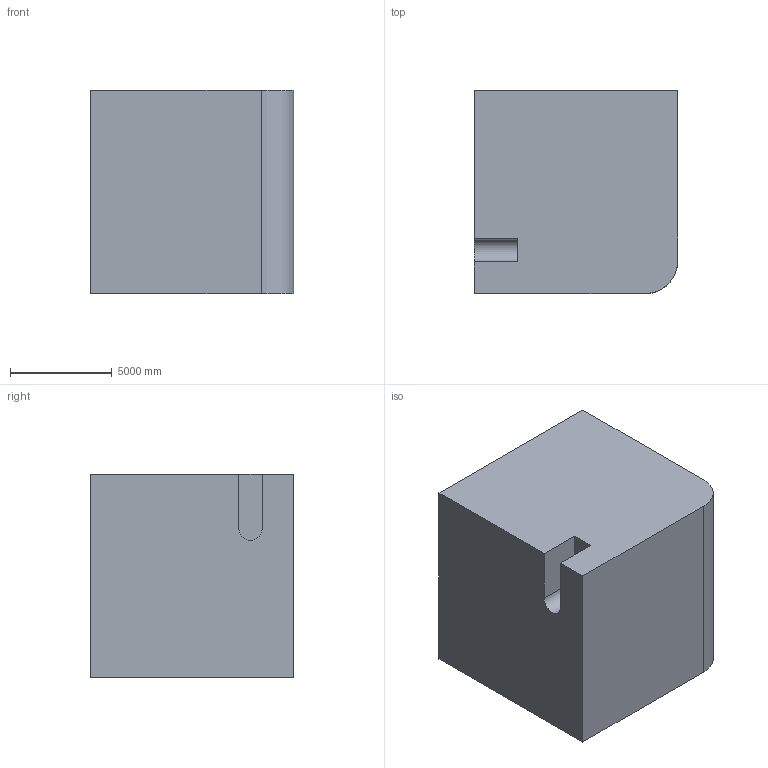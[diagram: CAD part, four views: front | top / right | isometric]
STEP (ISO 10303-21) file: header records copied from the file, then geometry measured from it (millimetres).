
FILE_DESCRIPTION (( 'STEP AP203' ), '1' );
FILE_NAME ('1183.STEP', '2022-08-18T13:05:18', ( 'user' ), ( '' ), 'SwSTEP 2.0', 'SolidWorks 2021', '' );
FILE_SCHEMA (( 'CONFIG_CONTROL_DESIGN' ));
Length unit declared in the file: centimetre
Products named in the file (1): 1183
Bounding box: 10000 x 10000 x 10000 mm (x, y, z)
Volume: 986987013361.4 mm3; surface area: 604854315.4 mm2
Topology: 1 solids, 1 shells, 11 faces, 27 edges, 18 vertices
Faces by surface type: plane 9, cylinder 2
Entity records: 402 total; most frequent: CARTESIAN_POINT 57, DIRECTION 55, ORIENTED_EDGE 54, EDGE_CURVE 27, VECTOR 23, LINE 23, VERTEX_POINT 18, AXIS2_PLACEMENT_3D 16
